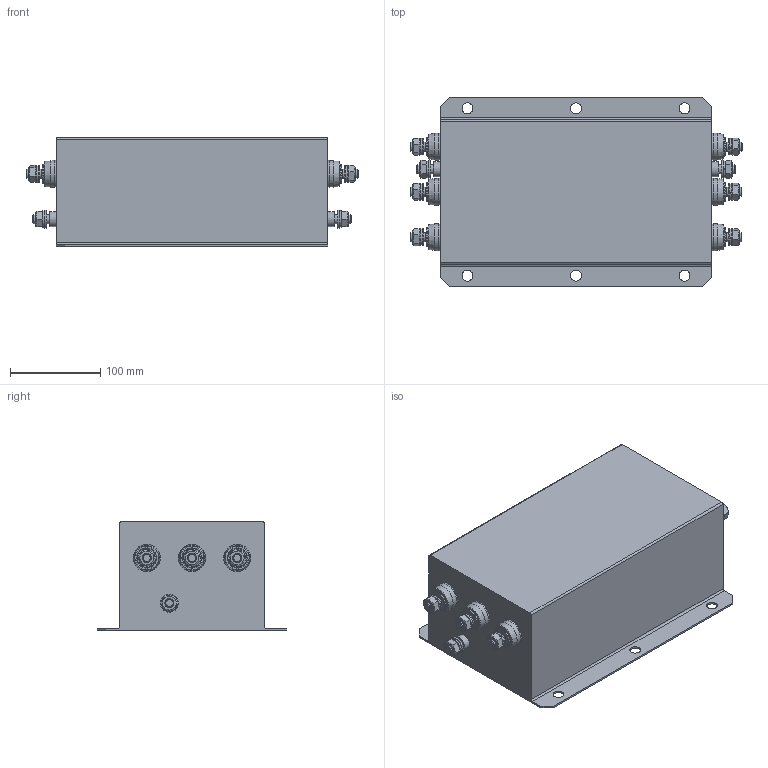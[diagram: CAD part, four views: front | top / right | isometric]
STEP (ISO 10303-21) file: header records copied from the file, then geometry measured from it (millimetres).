
FILE_DESCRIPTION((''),'2;1');
FILE_NAME('P:\Construction\Filter_Marketing\FN\FN3359\FN3359-150-28\FN3359-150_180-28.stp','2015-06-19T08:56:56',('erika.jenzer'),(''),'Autodesk Inventor 2013','Autodesk Inventor 2013','');
FILE_SCHEMA(('AUTOMOTIVE_DESIGN { 1 0 10303 214 1 1 1 1 }'));
Length unit declared in the file: millimetre
Products named in the file (1): FN3359-150_180-28
Bounding box: 367 x 210 x 120 mm (x, y, z)
Volume: 5904400.6 mm3; surface area: 291626.7 mm2
Topology: 7 solids, 31 shells, 1126 faces, 2840 edges, 1804 vertices
Faces by surface type: plane 398, cylinder 312, bspline 216, cone 152, torus 48
Full cylindrical faces by diameter (mm): 4 x48, 10 x16, 10.5 x8, 12 x6, 15.9 x6, 16.5 x2, 18 x6, 18.269 x6, 20 x2, 21 x6, 21.1 x6
Entity records: 44031 total; most frequent: CARTESIAN_POINT 18981, ORIENTED_EDGE 4988, DIRECTION 4358, EDGE_CURVE 2494, AXIS2_PLACEMENT_3D 1769, VERTEX_POINT 1674, EDGE_LOOP 1542, STYLED_ITEM 1133
